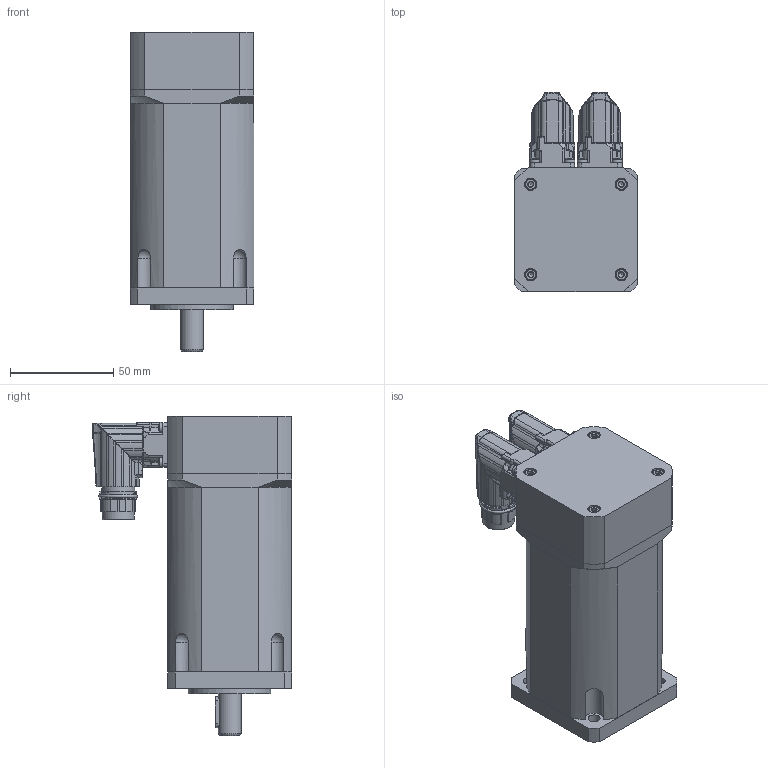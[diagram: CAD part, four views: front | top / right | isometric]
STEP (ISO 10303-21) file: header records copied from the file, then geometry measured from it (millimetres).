
FILE_DESCRIPTION(/* description */ (''),/* implementation_level */ '2;1');
FILE_NAME(/* name */ 'C:\Users\Public\Documents\Autodesk\Inventor LT 2014\Workspace\TG2\DSM5_2x_xxx8\DSM5_22_xxx8.stp',/* time_stamp */ '2016-04-28T09:33:28+02:00',/* author */ ('motion'),/* organization */ (''),/* preprocessor_version */ 'ST-DEVELOPER v15.2',/* originating_system */ 'Autodesk Inventor LT ',/* authorisation */ '');
FILE_SCHEMA (('AUTOMOTIVE_DESIGN { 1 0 10303 214 3 1 1 }'));
Products named in the file (1): DSM5_22_xxx8
Bounding box: 60 x 96.55 x 155 mm (x, y, z)
Volume: 476700.2 mm3; surface area: 77913.9 mm2
Topology: 15 solids, 15 shells, 2671 faces, 6846 edges, 4229 vertices
Faces by surface type: cylinder 935, plane 721, bspline 395, torus 282, cone 240, sphere 98
Full cylindrical faces by diameter (mm): 0.6 x17, 1 x7, 1.1 x17, 2.1 x15, 2.224 x8, 2.5 x8, 2.7 x8, 3 x8, 3.2 x6, 3.242 x1, 4.8 x2, 5 x2, 5.5 x8, 5.8 x4, 6 x8, 11 x1, 11.7 x1, 13.701 x1, 14.2 x2, 15 x1, 15.54 x2, 16 x1, 25 x1, 28 x1, 35 x2, 40 x1
Entity records: 115947 total; most frequent: CARTESIAN_POINT 52315, ORIENTED_EDGE 12786, DIRECTION 12629, EDGE_CURVE 6393, AXIS2_PLACEMENT_3D 5296, VERTEX_POINT 4136, EDGE_LOOP 3098, ADVANCED_FACE 2671
